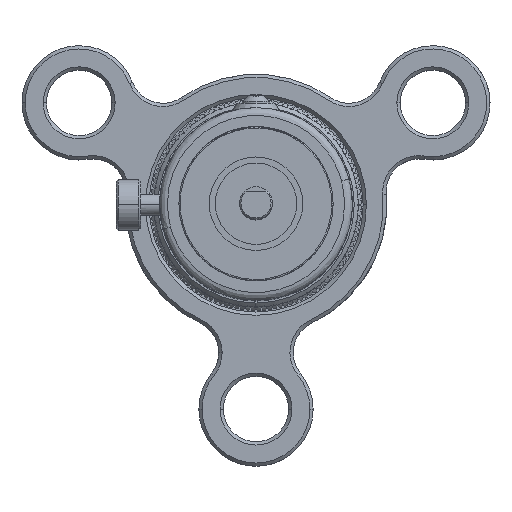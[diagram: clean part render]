
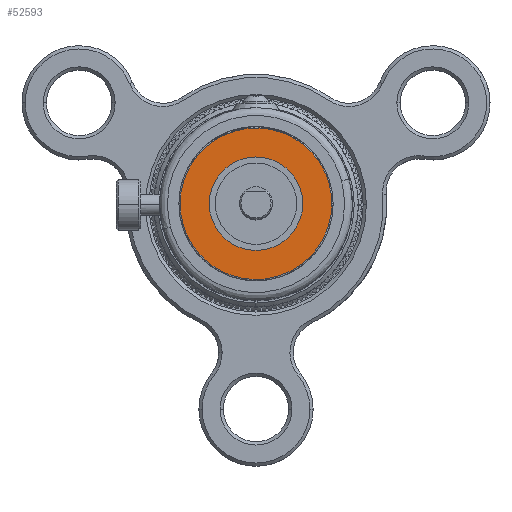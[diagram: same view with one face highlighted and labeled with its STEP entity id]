
A CAD part, top view. The second image highlights one B-rep face of the part: STEP entity #52593.
In plain terms, the highlighted planar face has unit normal (0, 0, 1).
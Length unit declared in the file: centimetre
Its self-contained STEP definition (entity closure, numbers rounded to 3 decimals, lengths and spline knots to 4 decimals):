
#5140 = CARTESIAN_POINT ( 'NONE',  ( 0., 0., 0. ) ) ;
#5141 = DIRECTION ( 'NONE',  ( 0., 0., -1. ) ) ;
#5142 = DIRECTION ( 'NONE',  ( -1., 0., 0. ) ) ;
#8220 = CARTESIAN_POINT ( 'NONE',  ( 0., 0., 0. ) ) ;
#8221 = DIRECTION ( 'NONE',  ( 0., 0., -1. ) ) ;
#8222 = DIRECTION ( 'NONE',  ( -1., 0., 0. ) ) ;
#9738 = VERTEX_POINT ( 'NONE', #13210 ) ;
#10608 = CARTESIAN_POINT ( 'NONE',  ( -1.4732, 0., 0. ) ) ;
#10618 = CARTESIAN_POINT ( 'NONE',  ( -1.4732, 2.9464, 0. ) ) ;
#10624 = CARTESIAN_POINT ( 'NONE',  ( 1.4732, 2.9464, 0. ) ) ;
#10625 = CARTESIAN_POINT ( 'NONE',  ( 1.4732, 0., 0. ) ) ;
#11943 = CARTESIAN_POINT ( 'NONE',  ( 1.4732, -2.9464, 0. ) ) ;
#12011 = CARTESIAN_POINT ( 'NONE',  ( -1.4732, 0., 0. ) ) ;
#12347 = CARTESIAN_POINT ( 'NONE',  ( -1.4732, -2.9464, 0. ) ) ;
#12480 = CARTESIAN_POINT ( 'NONE',  ( -0.9081, 0., 0. ) ) ;
#12578 = CARTESIAN_POINT ( 'NONE',  ( 1.4732, 0., 0. ) ) ;
#12718 = CARTESIAN_POINT ( 'NONE',  ( -1.4732, 0., 0. ) ) ;
#12980 = CARTESIAN_POINT ( 'NONE',  ( 1.4732, 0., 0. ) ) ;
#13210 = CARTESIAN_POINT ( 'NONE',  ( 0.9081, 0., 0. ) ) ;
#14724 = CIRCLE ( 'NONE', #33114, 0.9081 ) ;
#17559 = VERTEX_POINT ( 'NONE', #12980 ) ;
#19894 = FACE_OUTER_BOUND ( 'NONE', #20788, .T. ) ;
#19899 = FACE_BOUND ( 'NONE', #20429, .T. ) ;
#20429 = EDGE_LOOP ( 'NONE', ( #40760, #40815 ) ) ;
#20788 = EDGE_LOOP ( 'NONE', ( #42795, #42859 ) ) ;
#23791 = AXIS2_PLACEMENT_3D ( 'NONE', #25283, #25289, #25290 ) ;
#25003 =( BOUNDED_CURVE ( )  B_SPLINE_CURVE ( 3, ( #12578, #11943, #12347, #12011 ),
 .UNSPECIFIED., .F., .F. ) 
 B_SPLINE_CURVE_WITH_KNOTS ( ( 4, 4 ),
 ( 0., 0.5 ),
 .UNSPECIFIED. ) 
 CURVE ( )  GEOMETRIC_REPRESENTATION_ITEM ( )  RATIONAL_B_SPLINE_CURVE ( ( 1., 0.333, 0.333, 1. ) ) 
 REPRESENTATION_ITEM ( '' )  );
#25283 = CARTESIAN_POINT ( 'NONE',  ( 0.8522, 0., 0. ) ) ;
#25284 = PLANE ( 'NONE',  #23791 ) ;
#25289 = DIRECTION ( 'NONE',  ( 0., 0., 1. ) ) ;
#25290 = DIRECTION ( 'NONE',  ( 1., 0., 0. ) ) ;
#32357 = VERTEX_POINT ( 'NONE', #12480 ) ;
#32604 = VERTEX_POINT ( 'NONE', #12718 ) ;
#33114 = AXIS2_PLACEMENT_3D ( 'NONE', #5140, #5141, #5142 ) ;
#33435 = AXIS2_PLACEMENT_3D ( 'NONE', #8220, #8221, #8222 ) ;
#40760 = ORIENTED_EDGE ( 'NONE', *, *, #46469, .T. ) ;
#40815 = ORIENTED_EDGE ( 'NONE', *, *, #41275, .T. ) ;
#40953 = EDGE_CURVE ( 'NONE', #17559, #32604, #25003, .T. ) ;
#41275 = EDGE_CURVE ( 'NONE', #9738, #32357, #45253, .T. ) ;
#42795 = ORIENTED_EDGE ( 'NONE', *, *, #40953, .F. ) ;
#42859 = ORIENTED_EDGE ( 'NONE', *, *, #46240, .F. ) ;
#45253 = CIRCLE ( 'NONE', #33435, 0.9081 ) ;
#45909 =( BOUNDED_CURVE ( )  B_SPLINE_CURVE ( 3, ( #10608, #10618, #10624, #10625 ),
 .UNSPECIFIED., .F., .F. ) 
 B_SPLINE_CURVE_WITH_KNOTS ( ( 4, 4 ),
 ( 0.5, 1. ),
 .UNSPECIFIED. ) 
 CURVE ( )  GEOMETRIC_REPRESENTATION_ITEM ( )  RATIONAL_B_SPLINE_CURVE ( ( 1., 0.333, 0.333, 1. ) ) 
 REPRESENTATION_ITEM ( '' )  );
#46240 = EDGE_CURVE ( 'NONE', #32604, #17559, #45909, .T. ) ;
#46469 = EDGE_CURVE ( 'NONE', #32357, #9738, #14724, .T. ) ;
#52593 = ADVANCED_FACE ( 'NONE', ( #19894, #19899 ), #25284, .T. ) ;
